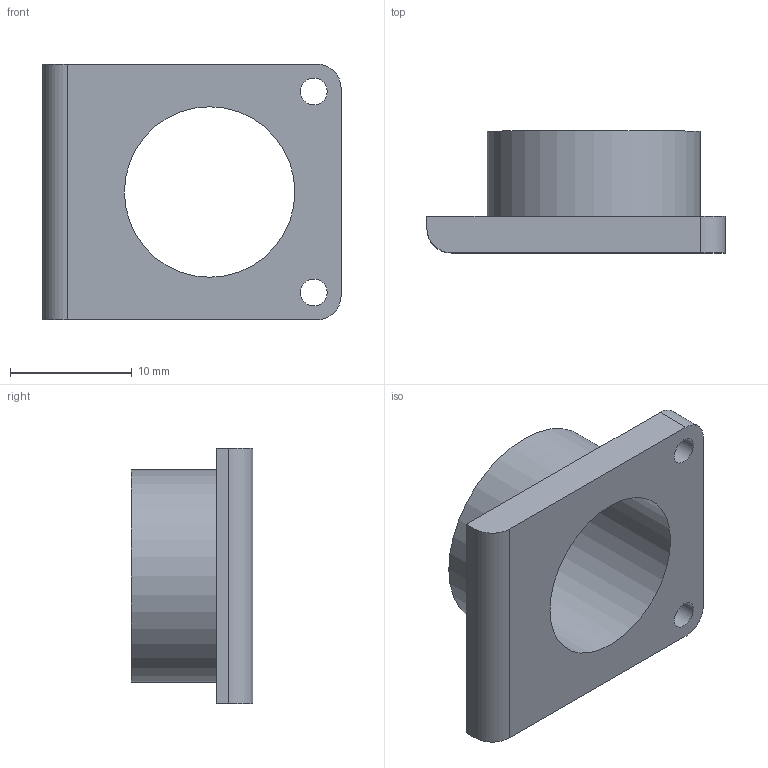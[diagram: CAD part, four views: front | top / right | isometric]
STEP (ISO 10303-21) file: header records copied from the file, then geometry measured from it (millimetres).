
FILE_DESCRIPTION(/* description */ (''),/* implementation_level */ '2;1');
FILE_NAME(/* name */ 'NUT CAP.step',/* time_stamp */ '2026-10-23T15:25:24+05:30',/* author */ (''),/* organization */ (''),/* preprocessor_version */ 'ST-DEVELOPER v20.2',/* originating_system */ 'Autodesk Translation Framework v15.15.0.0',/* authorisation */ '');
FILE_SCHEMA (('AUTOMOTIVE_DESIGN { 1 0 10303 214 3 1 1 }'));
Length unit declared in the file: millimetre
Products named in the file (1): 2026-10-23-15-25-24-941
Bounding box: 24.5 x 10 x 21 mm (x, y, z)
Volume: 1641.8 mm3; surface area: 1816.7 mm2
Topology: 1 solids, 1 shells, 14 faces, 33 edges, 22 vertices
Faces by surface type: cylinder 7, plane 7
Full cylindrical faces by diameter (mm): 2.2 x2, 14 x1, 17.5 x1
Entity records: 456 total; most frequent: DIRECTION 77, CARTESIAN_POINT 70, ORIENTED_EDGE 66, EDGE_CURVE 33, AXIS2_PLACEMENT_3D 29, VERTEX_POINT 22, EDGE_LOOP 21, LINE 19
